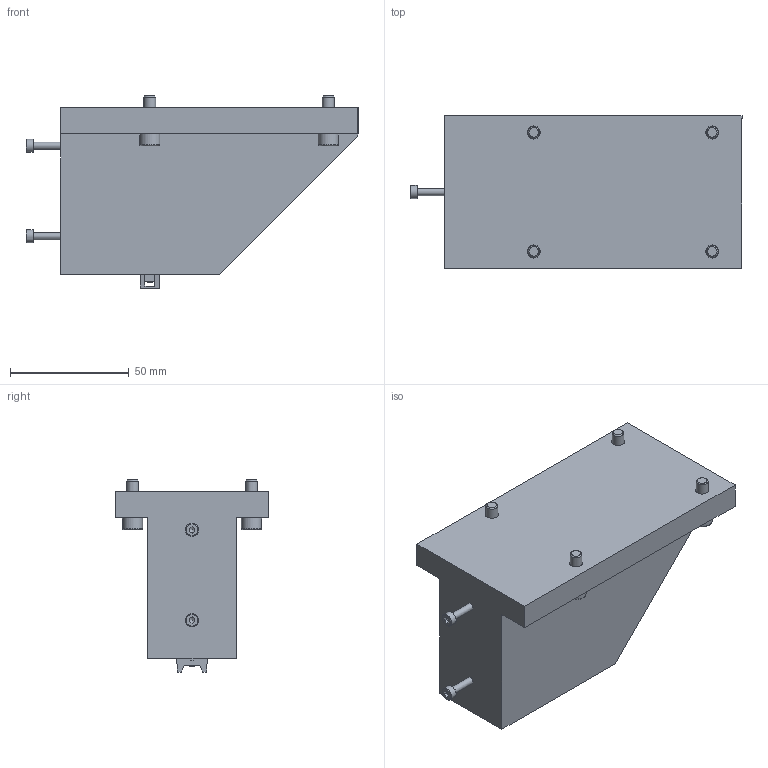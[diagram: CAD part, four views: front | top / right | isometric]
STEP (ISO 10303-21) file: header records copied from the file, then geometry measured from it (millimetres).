
FILE_DESCRIPTION(/* description */ ('Support court pour crémaillère'),/* implementation_level */ '2;1');
FILE_NAME(/* name */ 'S:\Bureau-Technique\Dispositif\MA 155-062-20.stp',/* time_stamp */ '2019-02-27T16:37:44+01:00',/* author */ ('ms'),/* organization */ ('Marcel Aubert'),/* preprocessor_version */ 'ST-DEVELOPER v17.2',/* originating_system */ 'Autodesk Inventor 2019',/* authorisation */ '');
FILE_SCHEMA (('CONFIG_CONTROL_DESIGN'));
Length unit declared in the file: millimetre
Products named in the file (6): MA 155-062-20; SUP-381-01; ACL-040-13; ISO 4762 - M5 x 16; ISO 4762 - M3 x 16; ISO 7045 - M3 x 4
Assembly tree (9 placements, depth 2):
  MA 155-062-20
    SUP-381-01
    ACL-040-13
    ISO 4762 - M5 x 16  x4
    ISO 4762 - M3 x 16  x2
    ISO 7045 - M3 x 4
Bounding box: 139.5 x 64 x 80.8 mm (x, y, z)
Volume: 300279.7 mm3; surface area: 38717 mm2
Topology: 9 solids, 9 shells, 170 faces, 479 edges, 331 vertices
Faces by surface type: plane 102, cone 27, cylinder 23, torus 17, sphere 1
Full cylindrical faces by diameter (mm): 2.459 x1, 2.621 x2, 2.729 x1, 3 x3, 3.6 x1, 5 x4, 5.5 x6, 7 x1, 8.5 x4
Entity records: 4014 total; most frequent: CARTESIAN_POINT 853, DIRECTION 623, ORIENTED_EDGE 618, EDGE_CURVE 309, AXIS2_PLACEMENT_3D 227, VERTEX_POINT 215, LINE 169, VECTOR 169
